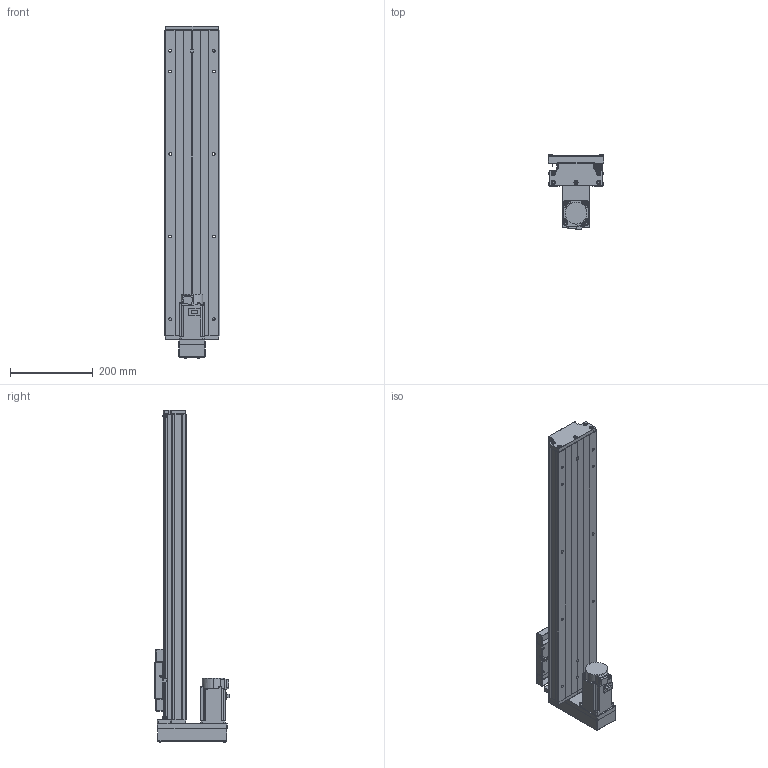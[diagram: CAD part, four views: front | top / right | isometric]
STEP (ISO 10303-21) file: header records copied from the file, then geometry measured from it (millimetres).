
FILE_DESCRIPTION (( 'STEP AP203' ), '1' );
FILE_NAME ('CTH130-550-BM-M40-C4.step', '2023-06-30T02:45:24', ( '微软用户' ), ( '微软中国' ), 'SwSTEP 2.0', 'SolidWorks 2020', '' );
FILE_SCHEMA (( 'CONFIG_CONTROL_DESIGN' ));
Length unit declared in the file: millimetre
Products named in the file (20): GB T308.1-2013-6.35; CTHA60-016; GBT 70.2-M4¡Á35_M4¡Á35; GTH14-004; GBT 70.1-M3℅5; GTH14-015-2_CTHA86-015-2; GTH14-005; GBT77-2000 M3×3; GTH14-033; GB1155-6X6; CTH130-031; CTH130-550-BM-M40-C4; GBT70.1 M5℅16; GBT 70.2-M3¡Á5_M3¡Á6; GTH14-001_550; CTHA60-017; す晦芛蹟隊 M3℅5; CTH130-002_GTH14-002; EE_SX911P_R; HG-KN43J-S100
Assembly tree (60 placements, depth 2):
  CTH130-550-BM-M40-C4
    GTH14-001_550
    CTH130-002_GTH14-002
    GB T308.1-2013-6.35  x2
    GTH14-004
    GTH14-005
    GB1155-6X6  x2
    GBT70.1 M5℅16  x10
    CTHA60-017  x3
    EE_SX911P_R  x3
    CTHA60-016  x2
    GBT 70.1-M3℅5  x6
    GBT77-2000 M3×3  x6
    CTH130-031
    GBT 70.2-M3¡Á5_M3¡Á6  x8
    す晦芛蹟隊 M3℅5  x6
    HG-KN43J-S100
    GBT 70.2-M4¡Á35_M4¡Á35  x4
    GTH14-015-2_CTHA86-015-2
    GTH14-033
Bounding box: 135 x 179.8 x 804.2 mm (x, y, z)
Volume: 4387842.1 mm3; surface area: 759678 mm2
Topology: 63 solids, 63 shells, 2435 faces, 5797 edges, 3585 vertices
Faces by surface type: plane 1310, cylinder 646, cone 299, torus 124, sphere 36, bspline 20
Entity records: 43924 total; most frequent: CARTESIAN_POINT 9847, DIRECTION 6402, ORIENTED_EDGE 6300, EDGE_CURVE 3150, AXIS2_PLACEMENT_3D 2184, VECTOR 2034, LINE 2034, VERTEX_POINT 1995
